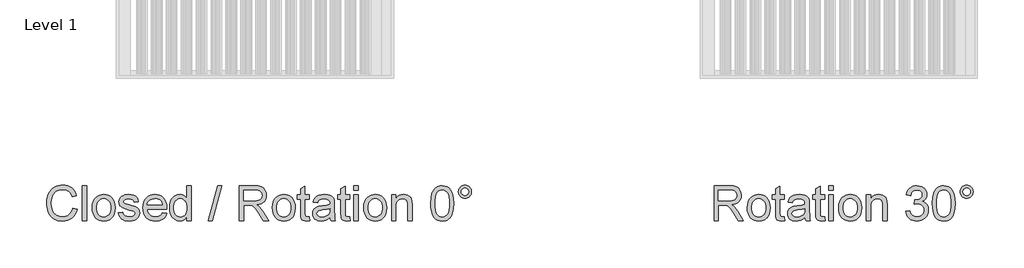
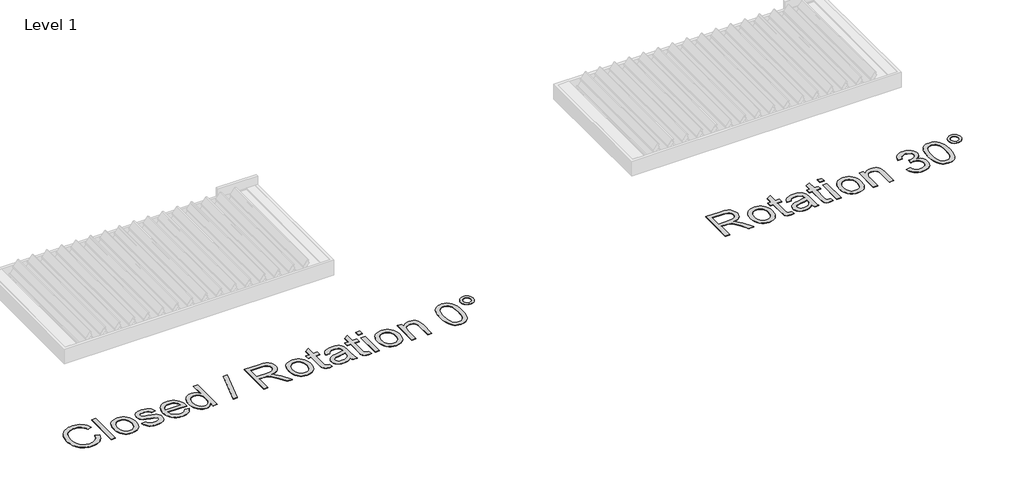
# One storey, part 7 of 12: 2 proxies.
"""IFC4 building model written with IfcOpenShell, lengths in millimetres."""

from ifc_helpers import new_model, si_unit, origin, origin_with_axes, place, context, project, spatial, polyline, outline, extrude, element, save

model = new_model("IFC4")

# Units and contexts
model_context = context("Model", 3, world=origin())
ifc_project = project(units=[si_unit("LENGTHUNIT", "METRE", prefix="MILLI")], contexts=[model_context])

# Site, building, storey
site = spatial("IfcSite", under=ifc_project)
building = spatial("IfcBuilding", under=site)
storey = spatial("IfcBuildingStorey", under=building, Name="Level 1", Elevation=0.0)

# Proxies
placement = place(None, origin())
element("IfcBuildingElementProxy", 1, Name="500mm Arial", ObjectType="500mm Arial", at=placement, inside=storey, context=model_context, shape_type="SweptSolid", body=[
    extrude(outline(polyline([(-11927.2781087, 14824.3526803), (-11864.4929149, 14808.1658725), (-11876.9165964, 14769.1205637), (-11893.463622, 14735.0033407), (-11914.1339916, 14705.8142036), (-11938.9277053, 14681.5531525), (-11967.2852757, 14662.4807703), (-11998.6472158, 14648.8576402), (-12033.0135255, 14640.6837621), (-12070.3842049, 14637.9591361), (-12108.6707571, 14640.0208081), (-12143.2095115, 14646.2058241), (-12174.0004681, 14656.5141842), (-12201.0436268, 14670.9458883), (-12224.7107018, 14689.2863386), (-12245.3734072, 14711.3209373), (-12263.031743, 14737.0496843), (-12277.6857091, 14766.4725797), (-12289.1935178, 14798.3173649), (-12297.4133811, 14831.3117814), (-12302.3452991, 14865.455829), (-12303.9892718, 14900.7495079), (-12302.1307013, 14938.6183608), (-12296.5549898, 14973.9886818), (-12287.2621373, 15006.8604709), (-12274.2521439, 15037.2337282), (-12257.8162493, 15064.6064479), (-12238.2456936, 15088.4766244), (-12215.5404767, 15108.8442578), (-12189.7005986, 15125.709348), (-12161.6036112, 15138.9339393), (-12132.1270664, 15148.380076), (-12101.270964, 15154.0477579), (-12069.0353042, 15155.9369853), (-12033.1246565, 15153.4921028), (-12000.1953859, 15146.1574556), (-11970.2474922, 15133.9330434), (-11943.2809755, 15116.8188664), (-11919.7403599, 15095.2671129), (-11900.0701695, 15069.7299711), (-11884.2704042, 15040.207441), (-11872.3410641, 15006.6995226), (-11935.126258, 14991.7389881), (-11945.0130866, 15016.4292349), (-11956.8926093, 15037.5249681), (-11970.7648263, 15055.0261876), (-11986.6297373, 15068.9328934), (-12004.579313, 15079.5286613), (-12024.7055238, 15087.0970669), (-12047.0083698, 15091.6381103), (-12071.4878508, 15093.1517914), (-12099.6538161, 15091.4733298), (-12125.41322, 15086.437945), (-12148.7660625, 15078.045637), (-12169.7123436, 15066.2964058), (-12187.9876481, 15051.7190817), (-12203.3275609, 15034.8424952), (-12215.7320819, 15015.6666462), (-12225.2012112, 14994.1915347), (-12237.2033613, 14948.2369422), (-12241.204078, 14900.8721353), (-12236.4675973, 14842.8694074), (-12222.2581552, 14792.7148287), (-12211.46695, 14771.0596083), (-12198.0392572, 14752.3244513), (-12181.9750767, 14736.5093576), (-12163.2744086, 14723.6143273), (-12121.5964443, 14706.4618292), (-12076.6381988, 14700.7443299), (-12049.3421212, 14702.6910388), (-12024.2303429, 14708.5311655), (-12001.302864, 14718.2647099), (-11980.5596844, 14731.8916722), (-11962.4913135, 14749.3507385), (-11947.5882606, 14770.5805953), (-11935.8505256, 14795.5812426), (-11927.2781087, 14824.3526803)])), origin_with_axes(), (0.0, 0.0, 1.0), 5.0),
    extrude(outline(polyline([(-11786.0114226, 14645.8072853), (-11786.0114226, 15148.088836), (-11723.2262287, 15148.088836), (-11723.2262287, 14645.8072853), (-11786.0114226, 14645.8072853)])), origin_with_axes(), (0.0, 0.0, 1.0), 5.0),
    extrude(outline(polyline([(-11644.7447364, 14830.2387922), (-11641.3494922, 14878.0098021), (-11631.1637595, 14919.1742645), (-11614.1875382, 14953.7321795), (-11590.4208285, 14981.6835469), (-11566.4931704, 14999.5488163), (-11540.0823088, 15012.309723), (-11511.1882438, 15019.966267), (-11479.8109753, 15022.5184484), (-11445.1725862, 15019.4106119), (-11413.8527992, 15010.0871026), (-11385.8516144, 14994.5479204), (-11361.1690318, 14972.7930653), (-11341.0236605, 14945.5583014), (-11326.6341095, 14913.5793925), (-11318.000379, 14876.8563388), (-11315.1224688, 14835.3891401), (-11320.211503, 14771.9601528), (-11326.5727959, 14745.9248374), (-11335.4786058, 14723.6756409), (-11346.8178019, 14704.4576388), (-11360.4792531, 14687.5159065), (-11376.4629594, 14672.850444), (-11394.7689207, 14660.4612514), (-11435.4965233, 14643.5846649), (-11479.8109753, 14637.9591361), (-11514.9552021, 14641.0554762), (-11546.566229, 14650.3444966), (-11574.6440558, 14665.8261972), (-11599.1886827, 14687.5005781), (-11619.1194562, 14714.9997572), (-11633.355723, 14747.9558526), (-11641.8974831, 14786.3688643), (-11644.7447364, 14830.2387922)]), holes=[polyline([(-11581.9595426, 14830.3614195), (-11580.1431252, 14799.9076881), (-11574.6938732, 14773.5389797), (-11565.6117864, 14751.2552943), (-11552.896865, 14733.0566318), (-11537.4304928, 14718.9199997), (-11520.0940537, 14708.8224054), (-11500.8875479, 14702.7638488), (-11479.8109753, 14700.7443299), (-11458.8417015, 14702.7753451), (-11439.7118378, 14708.8683906), (-11422.421384, 14719.0234665), (-11406.9703402, 14733.2405728), (-11394.2554188, 14751.6193442), (-11385.173332, 14774.2594153), (-11379.72408, 14801.1607862), (-11377.9076626, 14832.3234568), (-11379.7355763, 14861.811498), (-11385.2193173, 14887.4904277), (-11394.3588856, 14909.3602459), (-11407.1542812, 14927.4209526), (-11422.6628066, 14941.5575847), (-11439.941764, 14951.655179), (-11458.9911536, 14957.7137356), (-11479.8109753, 14959.7332545), (-11500.8875479, 14957.7213998), (-11520.0940537, 14951.6858359), (-11537.4304928, 14941.6265626), (-11552.896865, 14927.5435799), (-11565.6117864, 14909.3985669), (-11574.6938732, 14887.1532025), (-11580.1431252, 14860.8074867), (-11581.9595426, 14830.3614195)])]), origin_with_axes(), (0.0, 0.0, 1.0), 5.0),
    extrude(outline(polyline([(-11268.0335734, 14755.6813745), (-11205.2483795, 14763.5295237), (-11195.3462225, 14736.6741381), (-11176.1857019, 14716.9311377), (-11147.6441905, 14704.7910318), (-11109.5990608, 14700.7443299), (-11072.0137836, 14704.4538067), (-11045.5875936, 14715.582237), (-11029.9526088, 14731.7077312), (-11024.7409472, 14750.4083993), (-11029.9832657, 14766.411266), (-11045.710221, 14778.6126855), (-11110.3348248, 14796.516276), (-11167.6324455, 14813.0862942), (-11204.8804975, 14827.2344226), (-11228.8081556, 14842.670138), (-11246.1445947, 14863.1029171), (-11256.6752168, 14887.2298446), (-11260.1854241, 14913.7480051), (-11257.3649955, 14938.074202), (-11248.9037096, 14960.5303322), (-11235.5679873, 14980.2273473), (-11218.1242494, 14996.2761994), (-11200.7878103, 15006.3776258), (-11178.2090529, 15014.8542401), (-11152.1047596, 15020.6023963), (-11124.1917133, 15022.5184484), (-11083.326155, 15019.4374366), (-11047.7948856, 15010.1944015), (-11019.2227173, 14995.6937195), (-10999.2344622, 14976.8397673), (-10985.9907104, 14952.2376589), (-10977.6520519, 14920.4925084), (-11040.4372457, 14912.6443591), (-11048.362037, 14932.4026879), (-11064.0430071, 14947.2865803), (-11087.63344, 14956.621586), (-11119.28662, 14959.7332545), (-11155.3390555, 14956.7595417), (-11179.3740125, 14947.8384033), (-11192.8936759, 14934.9625335), (-11197.4002303, 14920.1246264), (-11195.5301635, 14910.467724), (-11189.9199631, 14901.8531539), (-11180.3243744, 14894.1582889), (-11166.4981427, 14887.9962654), (-11112.4194894, 14874.6298863), (-11020.2650496, 14845.0766993), (-10995.9235243, 14830.9438994), (-10977.4681109, 14811.5994378), (-10965.8338428, 14786.9820009), (-10961.9557534, 14757.0302752), (-10966.5082931, 14726.0668739), (-10980.1659122, 14696.9428826), (-11002.4074444, 14671.9422354), (-11032.7117238, 14653.3488662), (-11069.3159823, 14641.8065686), (-11110.4574521, 14637.9591361), (-11144.2489462, 14639.8138745), (-11173.7638121, 14645.3780896), (-11199.0020498, 14654.6517816), (-11219.9636593, 14667.6349503), (-11237.0855005, 14684.2662822), (-11250.8044333, 14704.4844635), (-11261.1204576, 14728.2894943), (-11268.0335734, 14755.6813745)])), origin_with_axes(), (0.0, 0.0, 1.0), 5.0),
    extrude(outline(polyline([(-10633.0692497, 14755.6813745), (-10571.5103292, 14747.8332253), (-10580.9488016, 14723.1774674), (-10593.6905478, 14701.4494371), (-10609.7355677, 14682.6491343), (-10629.0838614, 14666.776559), (-10651.5361594, 14654.1689365), (-10676.8931924, 14645.1634918), (-10705.1549602, 14639.760225), (-10736.321463, 14637.9591361), (-10775.2786335, 14641.0669725), (-10809.9898326, 14650.3904818), (-10840.4550603, 14665.929664), (-10866.6743166, 14687.6845191), (-10887.7585535, 14715.0495746), (-10902.8187227, 14747.419358), (-10911.8548242, 14784.7938695), (-10914.866858, 14827.1731089), (-10911.8241673, 14870.9893874), (-10902.6960953, 14909.6093327), (-10887.482642, 14943.0329448), (-10866.1838073, 14971.2602237), (-10840.0335288, 14993.685697), (-10810.265744, 15009.7038922), (-10776.880453, 15019.3148093), (-10739.8776556, 15022.5184484), (-10704.0666427, 15019.3224735), (-10671.6815308, 15009.734549), (-10642.72232, 14993.7546749), (-10617.1890102, 14971.382851), (-10596.346196, 14943.2168858), (-10581.4584715, 14909.8545873), (-10572.5258368, 14871.2959557), (-10569.5482919, 14827.5409909), (-10569.9161739, 14810.6184191), (-10852.0816642, 14810.6184191), (-10848.4449974, 14785.5641224), (-10841.2138169, 14763.6214942), (-10830.3881228, 14744.7905346), (-10815.967915, 14729.0712435), (-10798.7502712, 14716.6782188), (-10779.532269, 14707.8260583), (-10758.3139085, 14702.514762), (-10735.0951897, 14700.7443299), (-10701.6792418, 14704.024611), (-10673.5362692, 14713.8654544), (-10650.6662718, 14730.8799967), (-10633.0692497, 14755.6813745)]), holes=[polyline([(-10852.0816642, 14873.403613), (-10632.3334857, 14873.403613), (-10640.8254284, 14906.5743062), (-10657.4720887, 14930.3026949), (-10674.5939299, 14943.1785647), (-10694.0763472, 14952.3756146), (-10715.9193407, 14957.8938445), (-10740.1229103, 14959.7332545), (-10782.4446682, 14953.862471), (-10800.8579284, 14946.5239916), (-10817.439443, 14936.2501205), (-10831.353813, 14923.5160385), (-10841.7656399, 14908.7969266), (-10848.6749236, 14892.0927847), (-10852.0816642, 14873.403613)])]), origin_with_axes(), (0.0, 0.0, 1.0), 5.0),
    extrude(outline(polyline([(-10279.1667703, 14645.8072853), (-10279.1667703, 14705.0362865), (-10297.9517447, 14675.6900332), (-10320.706779, 14654.7284237), (-10347.4318731, 14642.151458), (-10378.127027, 14637.9591361), (-10418.7166738, 14644.029189), (-10455.8727554, 14662.2393477), (-10487.3266659, 14691.3173538), (-10510.8098, 14729.9909485), (-10525.4331093, 14776.6966335), (-10530.3075457, 14829.8709102), (-10525.8163197, 14882.386065), (-10512.3426416, 14929.8121856), (-10502.2412152, 14950.9424077), (-10489.9018399, 14969.4514705), (-10475.3245159, 14985.3393742), (-10458.509243, 14998.6061187), (-10420.5407554, 15016.5403659), (-10378.3722817, 15022.5184484), (-10347.6541351, 15018.2418202), (-10320.4921811, 15005.4119356), (-10297.4688996, 14985.7455772), (-10279.1667703, 14960.9595278), (-10279.1667703, 15148.088836), (-10216.3815765, 15148.088836), (-10216.3815765, 14645.8072853), (-10279.1667703, 14645.8072853)]), holes=[polyline([(-10467.5223519, 14830.1161649), (-10465.7519198, 14799.6700977), (-10460.4406235, 14773.3243819), (-10451.588463, 14751.0790175), (-10439.1954382, 14732.9340045), (-10424.3958521, 14718.8510219), (-10408.3240075, 14708.7917485), (-10390.9799043, 14702.7561846), (-10372.3635425, 14700.7443299), (-10353.6590423, 14702.6642141), (-10336.4184058, 14708.4238666), (-10320.6416332, 14718.0232874), (-10306.3287243, 14731.4624765), (-10294.4453695, 14748.8487329), (-10285.9572588, 14770.2893554), (-10280.8643925, 14795.7843441), (-10279.1667703, 14825.3336989), (-10280.8950493, 14857.7303071), (-10286.0798862, 14885.513062), (-10294.721281, 14908.6819635), (-10306.8192336, 14927.2370116), (-10321.4463751, 14941.4541179), (-10337.675336, 14951.6091938), (-10355.5061164, 14957.7022393), (-10374.9387164, 14959.7332545), (-10393.9229602, 14957.7827135), (-10411.2670634, 14951.9310905), (-10426.9710261, 14942.1783855), (-10441.0348482, 14928.5245986), (-10452.6231311, 14910.6708255), (-10460.900476, 14888.3181622), (-10465.8668829, 14861.4666086), (-10467.5223519, 14830.1161649)])]), origin_with_axes(), (0.0, 0.0, 1.0), 5.0),
    extrude(outline(polyline([(-9973.0889504, 14645.8072853), (-9831.8222642, 15148.088836), (-9775.168437, 15148.088836), (-9916.4351231, 14645.8072853), (-9973.0889504, 14645.8072853)])), origin_with_axes(), (0.0, 0.0, 1.0), 5.0),
    extrude(outline(polyline([(-9525.7444442, 14645.8072853), (-9525.7444442, 15148.088836), (-9309.3072037, 15148.088836), (-9251.1358632, 15144.701256), (-9208.8141054, 15134.5385159), (-9177.881361, 15115.7765341), (-9153.8770608, 15086.5912292), (-9138.4720022, 15050.4008379), (-9133.3369827, 15010.6235972), (-9135.4638005, 14984.8258723), (-9141.8442538, 14961.1434688), (-9152.4783428, 14939.5763869), (-9167.3660673, 14920.1246264), (-9186.6990325, 14903.4089882), (-9210.6688438, 14890.0502733), (-9239.275501, 14880.0484815), (-9272.5190042, 14873.403613), (-9251.825642, 14859.8839496), (-9236.8344507, 14846.5482273), (-9185.944108, 14781.9236235), (-9102.1896404, 14645.8072853), (-9175.1529028, 14645.8072853), (-9240.5132706, 14749.9178899), (-9287.7247933, 14818.8344504), (-9305.2758302, 14838.9300043), (-9320.8954866, 14851.3920069), (-9350.7552419, 14863.3481718), (-9387.1755594, 14865.5554637), (-9462.9592504, 14865.5554637), (-9462.9592504, 14645.8072853), (-9525.7444442, 14645.8072853)]), holes=[polyline([(-9462.9592504, 14928.3406576), (-9322.4283282, 14928.3406576), (-9282.0686077, 14930.563278), (-9250.7526528, 14937.2311391), (-9227.1775483, 14948.7887652), (-9210.0403787, 14965.6806801), (-9199.6017271, 14986.1134592), (-9196.1221765, 15008.2936779), (-9197.7814776, 15024.3501941), (-9202.7593809, 15038.919854), (-9211.0558863, 15052.0026574), (-9222.6709939, 15063.5986045), (-9237.8729509, 15073.0945585), (-9256.9300047, 15079.8773828), (-9306.6094024, 15085.3036422), (-9462.9592504, 15085.3036422), (-9462.9592504, 14928.3406576)])]), origin_with_axes(), (0.0, 0.0, 1.0), 5.0),
    extrude(outline(polyline([(-9047.0073412, 14830.2387922), (-9043.6120969, 14878.0098021), (-9033.4263642, 14919.1742645), (-9016.4501429, 14953.7321795), (-8992.6834332, 14981.6835469), (-8968.7557751, 14999.5488163), (-8942.3449135, 15012.309723), (-8913.4508485, 15019.966267), (-8882.07358, 15022.5184484), (-8847.4351909, 15019.4106119), (-8816.1154039, 15010.0871026), (-8788.1142192, 14994.5479204), (-8763.4316366, 14972.7930653), (-8743.2862652, 14945.5583014), (-8728.8967143, 14913.5793925), (-8720.2629837, 14876.8563388), (-8717.3850735, 14835.3891401), (-8722.4741078, 14771.9601528), (-8728.8354006, 14745.9248374), (-8737.7412106, 14723.6756409), (-8749.0804066, 14704.4576388), (-8762.7418578, 14687.5159065), (-8778.7255641, 14672.850444), (-8797.0315254, 14660.4612514), (-8837.759128, 14643.5846649), (-8882.07358, 14637.9591361), (-8917.2178068, 14641.0554762), (-8948.8288337, 14650.3444966), (-8976.9066606, 14665.8261972), (-9001.4512874, 14687.5005781), (-9021.3820609, 14714.9997572), (-9035.6183277, 14747.9558526), (-9044.1600878, 14786.3688643), (-9047.0073412, 14830.2387922)]), holes=[polyline([(-8984.2221473, 14830.3614195), (-8982.40573, 14799.9076881), (-8976.9564779, 14773.5389797), (-8967.8743912, 14751.2552943), (-8955.1594697, 14733.0566318), (-8939.6930975, 14718.9199997), (-8922.3566585, 14708.8224054), (-8903.1501526, 14702.7638488), (-8882.07358, 14700.7443299), (-8861.1043063, 14702.7753451), (-8841.9744425, 14708.8683906), (-8824.6839887, 14719.0234665), (-8809.232945, 14733.2405728), (-8796.5180235, 14751.6193442), (-8787.4359367, 14774.2594153), (-8781.9866847, 14801.1607862), (-8780.1702673, 14832.3234568), (-8781.998181, 14861.811498), (-8787.481922, 14887.4904277), (-8796.6214903, 14909.3602459), (-8809.4168859, 14927.4209526), (-8824.9254113, 14941.5575847), (-8842.2043688, 14951.655179), (-8861.2537583, 14957.7137356), (-8882.07358, 14959.7332545), (-8903.1501526, 14957.7213998), (-8922.3566585, 14951.6858359), (-8939.6930975, 14941.6265626), (-8955.1594697, 14927.5435799), (-8967.8743912, 14909.3985669), (-8976.9564779, 14887.1532025), (-8982.40573, 14860.8074867), (-8984.2221473, 14830.3614195)])]), origin_with_axes(), (0.0, 0.0, 1.0), 5.0),
    extrude(outline(polyline([(-8513.3331935, 14698.1691559), (-8505.4850443, 14643.9678753), (-8552.4513123, 14637.9591361), (-8582.5869791, 14640.5649669), (-8605.0584376, 14648.3824593), (-8620.9386771, 14660.4305946), (-8631.3006866, 14675.7283542), (-8637.0028575, 14702.0012601), (-8638.9035812, 14746.974834), (-8638.9035812, 14951.8851053), (-8685.9924766, 14951.8851053), (-8685.9924766, 15014.6702991), (-8638.9035812, 15014.6702991), (-8638.9035812, 15104.3108786), (-8576.1183873, 15141.2217055), (-8576.1183873, 15014.6702991), (-8513.3331935, 15014.6702991), (-8513.3331935, 14951.8851053), (-8576.1183873, 14951.8851053), (-8576.1183873, 14748.8142439), (-8572.8074494, 14716.4406284), (-8562.0775579, 14704.9749728), (-8540.6790885, 14700.7443299), (-8513.3331935, 14698.1691559)])), origin_with_axes(), (0.0, 0.0, 1.0), 5.0),
    extrude(outline(polyline([(-8215.1035227, 14692.8961807), (-8245.1012338, 14667.1750978), (-8275.9879929, 14650.3444966), (-8308.4689074, 14641.0554762), (-8343.2490844, 14637.9591361), (-8371.2042839, 14639.8215387), (-8395.718254, 14645.4087465), (-8416.7909945, 14654.7207595), (-8434.4225055, 14667.7575777), (-8448.3445398, 14683.6914666), (-8458.28885, 14701.6946917), (-8464.2554361, 14721.7672531), (-8466.2442981, 14743.9091507), (-8463.2399285, 14769.9368018), (-8454.2268196, 14793.57322), (-8440.3239459, 14813.8067298), (-8422.6502817, 14829.6256555), (-8401.8802774, 14841.5818204), (-8378.6883833, 14850.2270473), (-8324.3644753, 14859.6693518), (-8260.1690671, 14869.6021657), (-8215.4714047, 14881.2517622), (-8215.1035227, 14895.231278), (-8219.4261362, 14923.2516233), (-8232.3939765, 14941.5844094), (-8245.4691158, 14949.5245291), (-8261.3953405, 14955.1960432), (-8301.8010463, 14959.7332545), (-8339.2023824, 14956.7135565), (-8365.3220041, 14947.6544623), (-8383.133624, 14930.9005031), (-8395.610955, 14904.7962099), (-8458.3961489, 14912.6443591), (-8447.4976448, 14946.980012), (-8431.2341949, 14973.958025), (-8408.088286, 14994.5900735), (-8376.542405, 15009.8878332), (-8337.9607807, 15019.3607946), (-8293.7076424, 15022.5184484), (-8251.2632572, 15019.7286766), (-8217.617383, 15011.3593612), (-8192.2488538, 14998.7747312), (-8174.6365033, 14983.3390159), (-8162.9562499, 14964.2551374), (-8155.3840122, 14940.7260181), (-8152.3183289, 14885.7889735), (-8152.3183289, 14807.6753632), (-8149.1300183, 14698.5983516), (-8144.408866, 14671.635667), (-8136.6220304, 14645.8072853), (-8199.4072243, 14645.8072853), (-8209.4626655, 14667.6349503), (-8215.1035227, 14692.8961807)]), holes=[polyline([(-8215.1035227, 14818.4665684), (-8257.2873249, 14808.0125883), (-8316.3936987, 14799.2140773), (-8370.4110384, 14789.0360087), (-8384.4671963, 14782.0769077), (-8394.875191, 14772.481319), (-8401.313126, 14760.9850066), (-8403.4591043, 14748.3237346), (-8398.7839372, 14729.6537234), (-8384.7584362, 14714.3559637), (-8361.6891694, 14704.1472384), (-8329.8827052, 14700.7443299), (-8296.160189, 14704.4997919), (-8266.3617474, 14715.766178), (-8242.2041631, 14732.3668531), (-8225.4042186, 14752.1251819), (-8217.9546082, 14772.481319), (-8215.4714047, 14800.6856053), (-8215.1035227, 14818.4665684)])]), origin_with_axes(), (0.0, 0.0, 1.0), 5.0),
    extrude(outline(polyline([(-7932.5701504, 14698.1691559), (-7924.7220012, 14643.9678753), (-7971.6882693, 14637.9591361), (-8001.823936, 14640.5649669), (-8024.2953946, 14648.3824593), (-8040.175634, 14660.4305946), (-8050.5376436, 14675.7283542), (-8056.2398145, 14702.0012601), (-8058.1405381, 14746.974834), (-8058.1405381, 14951.8851053), (-8105.2294335, 14951.8851053), (-8105.2294335, 15014.6702991), (-8058.1405381, 15014.6702991), (-8058.1405381, 15104.3108786), (-7995.3553443, 15141.2217055), (-7995.3553443, 15014.6702991), (-7932.5701504, 15014.6702991), (-7932.5701504, 14951.8851053), (-7995.3553443, 14951.8851053), (-7995.3553443, 14748.8142439), (-7992.0444063, 14716.4406284), (-7981.3145148, 14704.9749728), (-7959.9160454, 14700.7443299), (-7932.5701504, 14698.1691559)])), origin_with_axes(), (0.0, 0.0, 1.0), 5.0),
    extrude(outline(polyline([(-7869.7849566, 14645.8072853), (-7869.7849566, 15014.6702991), (-7806.9997628, 15014.6702991), (-7806.9997628, 14645.8072853), (-7869.7849566, 14645.8072853)])), origin_with_axes(), (0.0, 0.0, 1.0), 5.0),
    extrude(outline(polyline([(-7869.7849566, 15085.3036422), (-7869.7849566, 15148.088836), (-7806.9997628, 15148.088836), (-7806.9997628, 15085.3036422), (-7869.7849566, 15085.3036422)])), origin_with_axes(), (0.0, 0.0, 1.0), 5.0),
    extrude(outline(polyline([(-7728.5182705, 14830.2387922), (-7725.1230262, 14878.0098021), (-7714.9372935, 14919.1742645), (-7697.9610722, 14953.7321795), (-7674.1943625, 14981.6835469), (-7650.2667044, 14999.5488163), (-7623.8558428, 15012.309723), (-7594.9617778, 15019.966267), (-7563.5845093, 15022.5184484), (-7528.9461202, 15019.4106119), (-7497.6263332, 15010.0871026), (-7469.6251485, 14994.5479204), (-7444.9425658, 14972.7930653), (-7424.7971945, 14945.5583014), (-7410.4076435, 14913.5793925), (-7401.773913, 14876.8563388), (-7398.8960028, 14835.3891401), (-7403.985037, 14771.9601528), (-7410.3463299, 14745.9248374), (-7419.2521398, 14723.6756409), (-7430.5913359, 14704.4576388), (-7444.2527871, 14687.5159065), (-7460.2364934, 14672.850444), (-7478.5424547, 14660.4612514), (-7519.2700573, 14643.5846649), (-7563.5845093, 14637.9591361), (-7598.7287361, 14641.0554762), (-7630.339763, 14650.3444966), (-7658.4175899, 14665.8261972), (-7682.9622167, 14687.5005781), (-7702.8929902, 14714.9997572), (-7717.129257, 14747.9558526), (-7725.6710171, 14786.3688643), (-7728.5182705, 14830.2387922)]), holes=[polyline([(-7665.7330766, 14830.3614195), (-7663.9166593, 14799.9076881), (-7658.4674072, 14773.5389797), (-7649.3853204, 14751.2552943), (-7636.670399, 14733.0566318), (-7621.2040268, 14718.9199997), (-7603.8675878, 14708.8224054), (-7584.6610819, 14702.7638488), (-7563.5845093, 14700.7443299), (-7542.6152356, 14702.7753451), (-7523.4853718, 14708.8683906), (-7506.194918, 14719.0234665), (-7490.7438742, 14733.2405728), (-7478.0289528, 14751.6193442), (-7468.946866, 14774.2594153), (-7463.497614, 14801.1607862), (-7461.6811966, 14832.3234568), (-7463.5091103, 14861.811498), (-7468.9928513, 14887.4904277), (-7478.1324196, 14909.3602459), (-7490.9278152, 14927.4209526), (-7506.4363406, 14941.5575847), (-7523.7152981, 14951.655179), (-7542.7646876, 14957.7137356), (-7563.5845093, 14959.7332545), (-7584.6610819, 14957.7213998), (-7603.8675878, 14951.6858359), (-7621.2040268, 14941.6265626), (-7636.670399, 14927.5435799), (-7649.3853204, 14909.3985669), (-7658.4674072, 14887.1532025), (-7663.9166593, 14860.8074867), (-7665.7330766, 14830.3614195)])]), origin_with_axes(), (0.0, 0.0, 1.0), 5.0),
    extrude(outline(polyline([(-7328.2626597, 14645.8072853), (-7328.2626597, 15014.6702991), (-7265.4774659, 15014.6702991), (-7265.4774659, 14963.1668198), (-7243.6651292, 14989.1331573), (-7217.4688655, 15007.6805412), (-7186.8886746, 15018.8089716), (-7151.9245567, 15022.5184484), (-7120.9764838, 15019.5294071), (-7092.6342418, 15010.5622835), (-7068.9978236, 14996.7360519), (-7052.1672223, 14979.1696866), (-7040.7475521, 14957.9091729), (-7033.3439269, 14933.0004962), (-7030.0329889, 14872.299967), (-7030.0329889, 14645.8072853), (-7092.8181828, 14645.8072853), (-7092.8181828, 14863.8386811), (-7094.6269359, 14896.3042672), (-7100.0531954, 14919.3888624), (-7110.0626513, 14935.9282237), (-7125.620994, 14948.7581083), (-7145.5632638, 14956.989468), (-7168.7245011, 14959.7332545), (-7187.7892191, 14958.1927487), (-7205.4973722, 14953.5712311), (-7221.8489605, 14945.8687018), (-7236.8439839, 14935.0851608), (-7249.3711323, 14919.9943348), (-7258.3190954, 14899.3699505), (-7263.6878732, 14873.2120078), (-7265.4774659, 14841.5205067), (-7265.4774659, 14645.8072853), (-7328.2626597, 14645.8072853)])), origin_with_axes(), (0.0, 0.0, 1.0), 5.0),
    extrude(outline(polyline([(-6763.1959151, 14892.9013587), (-6758.5820618, 14973.2989031), (-6744.7405017, 15037.4176692), (-6734.3938206, 15063.617765), (-6721.8091907, 15086.2386756), (-6706.9866119, 15105.280401), (-6689.9260844, 15120.7429411), (-6670.5701265, 15132.7067701), (-6648.8612567, 15141.2523623), (-6624.7994749, 15146.3797176), (-6598.3847813, 15148.088836), (-6559.6958581, 15144.0421341), (-6525.0536369, 15131.9020282), (-6496.0829298, 15112.1436994), (-6474.4085489, 15085.2423285), (-6458.0378001, 15051.4278418), (-6444.9779893, 15010.9301655), (-6436.4247329, 14959.5033283), (-6433.5736474, 14892.9013587), (-6438.1415155, 14812.9636668), (-6451.8451199, 14748.9981849), (-6462.1113268, 14722.7865928), (-6474.6384751, 14700.1311932), (-6489.4265649, 14681.0319863), (-6506.4755961, 14665.488972), (-6525.8545467, 14653.4446688), (-6547.6323944, 14644.8415951), (-6571.8091392, 14639.6797508), (-6598.3847813, 14637.9591361), (-6632.9656888, 14640.9481773), (-6663.6225217, 14649.9153009), (-6690.3552801, 14664.860507), (-6713.1639638, 14685.7837954), (-6735.0529425, 14723.6066631), (-6750.6879273, 14770.7338795), (-6760.0689181, 14827.1654447), (-6763.1959151, 14892.9013587)]), holes=[polyline([(-6700.4107213, 14893.023986), (-6698.5713113, 14838.4433271), (-6693.0530814, 14794.2629988), (-6683.8560315, 14760.483001), (-6670.9801617, 14737.1033338), (-6655.4064905, 14721.1962696), (-6638.1160367, 14709.8340809), (-6619.1088003, 14703.0167676), (-6598.3847813, 14700.7443299), (-6577.6607622, 14703.0244319), (-6558.6535258, 14709.8647377), (-6541.363072, 14721.2652474), (-6525.7894009, 14737.2259611), (-6512.9135311, 14760.6439493), (-6503.7164812, 14794.4162829), (-6498.1982512, 14838.5429618), (-6496.3588413, 14893.023986), (-6498.1369376, 14946.1599417), (-6503.4712265, 14989.5623529), (-6512.3617081, 15023.2312197), (-6524.8083822, 15047.166542), (-6540.1214703, 15063.8515234), (-6557.6111935, 15075.7693672), (-6577.2775518, 15082.9200734), (-6599.1205453, 15085.3036422), (-6619.7372654, 15083.2036491), (-6638.4226051, 15076.90367), (-6655.1765643, 15066.4037047), (-6669.999143, 15051.7037533), (-6683.3042085, 15025.6454453), (-6692.8078267, 14990.5127148), (-6698.5099976, 14946.3055617), (-6700.4107213, 14893.023986)])]), origin_with_axes(), (0.0, 0.0, 1.0), 5.0),
    extrude(outline(polyline([(-6362.9403044, 15061.8818218), (-6361.2120254, 15080.7127815), (-6356.0271885, 15098.0875415), (-6347.3857937, 15114.006102), (-6335.2878411, 15128.468463), (-6320.7679986, 15140.4859415), (-6304.8609344, 15149.0698547), (-6287.5666485, 15154.2202026), (-6268.8851409, 15155.9369853), (-6249.9468824, 15154.2202026), (-6232.4954802, 15149.0698547), (-6216.5309345, 15140.4859415), (-6202.0532451, 15128.468463), (-6190.0357666, 15114.006102), (-6181.4518534, 15098.0875415), (-6176.3015055, 15080.7127815), (-6174.5847228, 15061.8818218), (-6176.3130018, 15043.0930154), (-6181.4978387, 15025.7220874), (-6190.1392334, 15009.769038), (-6202.2371861, 14995.233867), (-6216.772357, 14983.1359143), (-6232.7254065, 14974.4945196), (-6250.0963344, 14969.3096827), (-6268.8851409, 14967.5814037), (-6287.5666485, 14969.2981864), (-6304.8609344, 14974.4485343), (-6320.7679986, 14983.0324475), (-6335.2878411, 14995.049926), (-6347.3857937, 15009.5276154), (-6356.0271885, 15025.4921611), (-6361.2120254, 15042.9435633), (-6362.9403044, 15061.8818218)]), holes=[polyline([(-6323.6995582, 15061.7591945), (-6319.6681847, 15040.6366366), (-6307.5740641, 15022.8863303), (-6289.7777726, 15010.838195), (-6268.6398863, 15006.8221499), (-6247.685941, 15010.838195), (-6229.9509631, 15022.8863303), (-6217.8568425, 15040.6366366), (-6213.825469, 15061.7591945), (-6217.8568425, 15082.8817524), (-6229.9509631, 15100.6320587), (-6247.685941, 15112.680194), (-6268.6398863, 15116.6962391), (-6289.7777726, 15112.680194), (-6307.5740641, 15100.6320587), (-6319.6681847, 15082.8817524), (-6323.6995582, 15061.7591945)])]), origin_with_axes(), (0.0, 0.0, 1.0), 5.0),
])
element("IfcBuildingElementProxy", 2, Name="500mm Arial", ObjectType="500mm Arial", at=placement, inside=storey, context=model_context, shape_type="SweptSolid", body=[
    extrude(outline(polyline([(-2675.0312961, 14645.8072853), (-2675.0312961, 15148.088836), (-2458.5940556, 15148.088836), (-2400.4227151, 15144.701256), (-2358.1009573, 15134.5385159), (-2327.1682129, 15115.7765341), (-2303.1639127, 15086.5912292), (-2287.7588541, 15050.4008379), (-2282.6238346, 15010.6235972), (-2284.7506524, 14984.8258723), (-2291.1311057, 14961.1434688), (-2301.7651947, 14939.5763869), (-2316.6529192, 14920.1246264), (-2335.9858844, 14903.4089882), (-2359.9556957, 14890.0502733), (-2388.5623529, 14880.0484815), (-2421.8058561, 14873.403613), (-2401.1124939, 14859.8839496), (-2386.1213026, 14846.5482273), (-2335.2309599, 14781.9236235), (-2251.4764924, 14645.8072853), (-2324.4397547, 14645.8072853), (-2389.8001225, 14749.9178899), (-2437.0116453, 14818.8344504), (-2454.5626821, 14838.9300043), (-2470.1823385, 14851.3920069), (-2500.0420938, 14863.3481718), (-2536.4624113, 14865.5554637), (-2612.2461023, 14865.5554637), (-2612.2461023, 14645.8072853), (-2675.0312961, 14645.8072853)]), holes=[polyline([(-2612.2461023, 14928.3406576), (-2471.7151801, 14928.3406576), (-2431.3554596, 14930.563278), (-2400.0395047, 14937.2311391), (-2376.4644002, 14948.7887652), (-2359.3272306, 14965.6806801), (-2348.888579, 14986.1134592), (-2345.4090285, 15008.2936779), (-2347.0683295, 15024.3501941), (-2352.0462328, 15038.919854), (-2360.3427382, 15052.0026574), (-2371.9578458, 15063.5986045), (-2387.1598028, 15073.0945585), (-2406.2168566, 15079.8773828), (-2455.8962543, 15085.3036422), (-2612.2461023, 15085.3036422), (-2612.2461023, 14928.3406576)])]), origin_with_axes(), (0.0, 0.0, 1.0), 5.0),
    extrude(outline(polyline([(-2196.2941931, 14830.2387922), (-2192.8989488, 14878.0098021), (-2182.7132161, 14919.1742645), (-2165.7369949, 14953.7321795), (-2141.9702851, 14981.6835469), (-2118.042627, 14999.5488163), (-2091.6317654, 15012.309723), (-2062.7377004, 15019.966267), (-2031.3604319, 15022.5184484), (-1996.7220428, 15019.4106119), (-1965.4022559, 15010.0871026), (-1937.4010711, 14994.5479204), (-1912.7184885, 14972.7930653), (-1892.5731171, 14945.5583014), (-1878.1835662, 14913.5793925), (-1869.5498356, 14876.8563388), (-1866.6719254, 14835.3891401), (-1871.7609597, 14771.9601528), (-1878.1222525, 14745.9248374), (-1887.0280625, 14723.6756409), (-1898.3672585, 14704.4576388), (-1912.0287097, 14687.5159065), (-1928.012416, 14672.850444), (-1946.3183774, 14660.4612514), (-1987.0459799, 14643.5846649), (-2031.3604319, 14637.9591361), (-2066.5046588, 14641.0554762), (-2098.1156856, 14650.3444966), (-2126.1935125, 14665.8261972), (-2150.7381393, 14687.5005781), (-2170.6689128, 14714.9997572), (-2184.9051796, 14747.9558526), (-2193.4469397, 14786.3688643), (-2196.2941931, 14830.2387922)]), holes=[polyline([(-2133.5089992, 14830.3614195), (-2131.6925819, 14799.9076881), (-2126.2433298, 14773.5389797), (-2117.1612431, 14751.2552943), (-2104.4463216, 14733.0566318), (-2088.9799494, 14718.9199997), (-2071.6435104, 14708.8224054), (-2052.4370045, 14702.7638488), (-2031.3604319, 14700.7443299), (-2010.3911582, 14702.7753451), (-1991.2612944, 14708.8683906), (-1973.9708407, 14719.0234665), (-1958.5197969, 14733.2405728), (-1945.8048754, 14751.6193442), (-1936.7227886, 14774.2594153), (-1931.2735366, 14801.1607862), (-1929.4571192, 14832.3234568), (-1931.2850329, 14861.811498), (-1936.7687739, 14887.4904277), (-1945.9083422, 14909.3602459), (-1958.7037379, 14927.4209526), (-1974.2122632, 14941.5575847), (-1991.4912207, 14951.655179), (-2010.5406102, 14957.7137356), (-2031.3604319, 14959.7332545), (-2052.4370045, 14957.7213998), (-2071.6435104, 14951.6858359), (-2088.9799494, 14941.6265626), (-2104.4463216, 14927.5435799), (-2117.1612431, 14909.3985669), (-2126.2433298, 14887.1532025), (-2131.6925819, 14860.8074867), (-2133.5089992, 14830.3614195)])]), origin_with_axes(), (0.0, 0.0, 1.0), 5.0),
    extrude(outline(polyline([(-1662.6200454, 14698.1691559), (-1654.7718962, 14643.9678753), (-1701.7381642, 14637.9591361), (-1731.873831, 14640.5649669), (-1754.3452895, 14648.3824593), (-1770.225529, 14660.4305946), (-1780.5875385, 14675.7283542), (-1786.2897095, 14702.0012601), (-1788.1904331, 14746.974834), (-1788.1904331, 14951.8851053), (-1835.2793285, 14951.8851053), (-1835.2793285, 15014.6702991), (-1788.1904331, 15014.6702991), (-1788.1904331, 15104.3108786), (-1725.4052392, 15141.2217055), (-1725.4052392, 15014.6702991), (-1662.6200454, 15014.6702991), (-1662.6200454, 14951.8851053), (-1725.4052392, 14951.8851053), (-1725.4052392, 14748.8142439), (-1722.0943013, 14716.4406284), (-1711.3644098, 14704.9749728), (-1689.9659404, 14700.7443299), (-1662.6200454, 14698.1691559)])), origin_with_axes(), (0.0, 0.0, 1.0), 5.0),
    extrude(outline(polyline([(-1364.3903746, 14692.8961807), (-1394.3880857, 14667.1750978), (-1425.2748449, 14650.3444966), (-1457.7557593, 14641.0554762), (-1492.5359363, 14637.9591361), (-1520.4911358, 14639.8215387), (-1545.0051059, 14645.4087465), (-1566.0778464, 14654.7207595), (-1583.7093574, 14667.7575777), (-1597.6313917, 14683.6914666), (-1607.5757019, 14701.6946917), (-1613.542288, 14721.7672531), (-1615.53115, 14743.9091507), (-1612.5267804, 14769.9368018), (-1603.5136715, 14793.57322), (-1589.6107978, 14813.8067298), (-1571.9371336, 14829.6256555), (-1551.1671293, 14841.5818204), (-1527.9752352, 14850.2270473), (-1473.6513272, 14859.6693518), (-1409.4559191, 14869.6021657), (-1364.7582566, 14881.2517622), (-1364.3903746, 14895.231278), (-1368.7129881, 14923.2516233), (-1381.6808284, 14941.5844094), (-1394.7559677, 14949.5245291), (-1410.6821924, 14955.1960432), (-1451.0878982, 14959.7332545), (-1488.4892344, 14956.7135565), (-1514.608856, 14947.6544623), (-1532.4204759, 14930.9005031), (-1544.8978069, 14904.7962099), (-1607.6830008, 14912.6443591), (-1596.7844967, 14946.980012), (-1580.5210468, 14973.958025), (-1557.375138, 14994.5900735), (-1525.8292569, 15009.8878332), (-1487.2476326, 15019.3607946), (-1442.9944943, 15022.5184484), (-1400.5501091, 15019.7286766), (-1366.9042349, 15011.3593612), (-1341.5357057, 14998.7747312), (-1323.9233552, 14983.3390159), (-1312.2431018, 14964.2551374), (-1304.6708641, 14940.7260181), (-1301.6051808, 14885.7889735), (-1301.6051808, 14807.6753632), (-1298.4168702, 14698.5983516), (-1293.6957179, 14671.635667), (-1285.9088823, 14645.8072853), (-1348.6940762, 14645.8072853), (-1358.7495174, 14667.6349503), (-1364.3903746, 14692.8961807)]), holes=[polyline([(-1364.3903746, 14818.4665684), (-1406.5741768, 14808.0125883), (-1465.6805507, 14799.2140773), (-1519.6978903, 14789.0360087), (-1533.7540482, 14782.0769077), (-1544.162043, 14772.481319), (-1550.5999779, 14760.9850066), (-1552.7459562, 14748.3237346), (-1548.0707892, 14729.6537234), (-1534.0452881, 14714.3559637), (-1510.9760213, 14704.1472384), (-1479.1695571, 14700.7443299), (-1445.4470409, 14704.4997919), (-1415.6485993, 14715.766178), (-1391.491015, 14732.3668531), (-1374.6910705, 14752.1251819), (-1367.2414601, 14772.481319), (-1364.7582566, 14800.6856053), (-1364.3903746, 14818.4665684)])]), origin_with_axes(), (0.0, 0.0, 1.0), 5.0),
    extrude(outline(polyline([(-1081.8570024, 14698.1691559), (-1074.0088531, 14643.9678753), (-1120.9751212, 14637.9591361), (-1151.1107879, 14640.5649669), (-1173.5822465, 14648.3824593), (-1189.4624859, 14660.4305946), (-1199.8244955, 14675.7283542), (-1205.5266664, 14702.0012601), (-1207.42739, 14746.974834), (-1207.42739, 14951.8851053), (-1254.5162854, 14951.8851053), (-1254.5162854, 15014.6702991), (-1207.42739, 15014.6702991), (-1207.42739, 15104.3108786), (-1144.6421962, 15141.2217055), (-1144.6421962, 15014.6702991), (-1081.8570024, 15014.6702991), (-1081.8570024, 14951.8851053), (-1144.6421962, 14951.8851053), (-1144.6421962, 14748.8142439), (-1141.3312582, 14716.4406284), (-1130.6013667, 14704.9749728), (-1109.2028973, 14700.7443299), (-1081.8570024, 14698.1691559)])), origin_with_axes(), (0.0, 0.0, 1.0), 5.0),
    extrude(outline(polyline([(-1019.0718085, 15085.3036422), (-1019.0718085, 15148.088836), (-956.2866147, 15148.088836), (-956.2866147, 15085.3036422), (-1019.0718085, 15085.3036422)])), origin_with_axes(), (0.0, 0.0, 1.0), 5.0),
    extrude(outline(polyline([(-1019.0718085, 14645.8072853), (-1019.0718085, 15014.6702991), (-956.2866147, 15014.6702991), (-956.2866147, 14645.8072853), (-1019.0718085, 14645.8072853)])), origin_with_axes(), (0.0, 0.0, 1.0), 5.0),
    extrude(outline(polyline([(-877.8051224, 14830.2387922), (-874.4098781, 14878.0098021), (-864.2241454, 14919.1742645), (-847.2479241, 14953.7321795), (-823.4812144, 14981.6835469), (-799.5535563, 14999.5488163), (-773.1426947, 15012.309723), (-744.2486297, 15019.966267), (-712.8713612, 15022.5184484), (-678.2329721, 15019.4106119), (-646.9131851, 15010.0871026), (-618.9120004, 14994.5479204), (-594.2294177, 14972.7930653), (-574.0840464, 14945.5583014), (-559.6944954, 14913.5793925), (-551.0607649, 14876.8563388), (-548.1828547, 14835.3891401), (-553.271889, 14771.9601528), (-559.6331818, 14745.9248374), (-568.5389918, 14723.6756409), (-579.8781878, 14704.4576388), (-593.539639, 14687.5159065), (-609.5233453, 14672.850444), (-627.8293066, 14660.4612514), (-668.5569092, 14643.5846649), (-712.8713612, 14637.9591361), (-748.015588, 14641.0554762), (-779.6266149, 14650.3444966), (-807.7044418, 14665.8261972), (-832.2490686, 14687.5005781), (-852.1798421, 14714.9997572), (-866.4161089, 14747.9558526), (-874.957869, 14786.3688643), (-877.8051224, 14830.2387922)]), holes=[polyline([(-815.0199285, 14830.3614195), (-813.2035112, 14799.9076881), (-807.7542591, 14773.5389797), (-798.6721724, 14751.2552943), (-785.9572509, 14733.0566318), (-770.4908787, 14718.9199997), (-753.1544397, 14708.8224054), (-733.9479338, 14702.7638488), (-712.8713612, 14700.7443299), (-691.9020875, 14702.7753451), (-672.7722237, 14708.8683906), (-655.4817699, 14719.0234665), (-640.0307261, 14733.2405728), (-627.3158047, 14751.6193442), (-618.2337179, 14774.2594153), (-612.7844659, 14801.1607862), (-610.9680485, 14832.3234568), (-612.7959622, 14861.811498), (-618.2797032, 14887.4904277), (-627.4192715, 14909.3602459), (-640.2146671, 14927.4209526), (-655.7231925, 14941.5575847), (-673.00215, 14951.655179), (-692.0515395, 14957.7137356), (-712.8713612, 14959.7332545), (-733.9479338, 14957.7213998), (-753.1544397, 14951.6858359), (-770.4908787, 14941.6265626), (-785.9572509, 14927.5435799), (-798.6721724, 14909.3985669), (-807.7542591, 14887.1532025), (-813.2035112, 14860.8074867), (-815.0199285, 14830.3614195)])]), origin_with_axes(), (0.0, 0.0, 1.0), 5.0),
    extrude(outline(polyline([(-477.5495116, 14645.8072853), (-477.5495116, 15014.6702991), (-414.7643178, 15014.6702991), (-414.7643178, 14963.1668198), (-392.9519811, 14989.1331573), (-366.7557174, 15007.6805412), (-336.1755265, 15018.8089716), (-301.2114086, 15022.5184484), (-270.2633357, 15019.5294071), (-241.9210937, 15010.5622835), (-218.2846755, 14996.7360519), (-201.4540742, 14979.1696866), (-190.034404, 14957.9091729), (-182.6307788, 14933.0004962), (-179.3198409, 14872.299967), (-179.3198409, 14645.8072853), (-242.1050347, 14645.8072853), (-242.1050347, 14863.8386811), (-243.9137878, 14896.3042672), (-249.3400473, 14919.3888624), (-259.3495032, 14935.9282237), (-274.9078459, 14948.7581083), (-294.8501158, 14956.989468), (-318.011353, 14959.7332545), (-337.076071, 14958.1927487), (-354.7842241, 14953.5712311), (-371.1358124, 14945.8687018), (-386.1308358, 14935.0851608), (-398.6579842, 14919.9943348), (-407.6059473, 14899.3699505), (-412.9747251, 14873.2120078), (-414.7643178, 14841.5205067), (-414.7643178, 14645.8072853), (-477.5495116, 14645.8072853)])), origin_with_axes(), (0.0, 0.0, 1.0), 5.0),
    extrude(outline(polyline([(87.517233, 14779.2258222), (150.3024268, 14787.0739714), (164.3585847, 14747.6186275), (173.8353782, 14732.696414), (184.944648, 14720.9778396), (197.9393131, 14712.1256791), (213.0722923, 14705.8027073), (249.7531929, 14700.7443299), (272.5005629, 14702.4841052), (292.7953863, 14707.703431), (310.6376631, 14716.4023073), (326.0273932, 14728.5807342), (338.4204179, 14743.3266708), (347.2725784, 14759.7280765), (352.5838747, 14777.7849511), (354.3543068, 14797.4972946), (352.5992031, 14816.2707727), (347.3338921, 14833.3504607), (338.5583736, 14848.7363588), (326.2726479, 14862.4284668), (311.2814565, 14873.6680282), (294.3895416, 14881.6962863), (275.596903, 14886.5132412), (254.9035408, 14888.1188928), (210.8803287, 14881.2517622), (217.8700866, 14944.036956), (227.9255278, 14943.3011921), (265.5414618, 14947.8077465), (299.1720075, 14961.3274098), (313.0135676, 14971.5514636), (322.9003962, 14984.1974072), (328.8324934, 14999.2652406), (330.8098591, 15016.7549638), (325.0770314, 15043.8709325), (307.8785481, 15065.8672101), (281.6362991, 15080.4445342), (248.7721742, 15085.3036422), (215.8467356, 15080.3985489), (188.9300363, 15065.6832691), (178.0391964, 15054.6468093), (169.2790064, 15041.1578028), (158.1505761, 15006.8221499), (95.3653822, 15014.6702991), (102.8073284, 15044.6450175), (113.8514525, 15071.0482149), (128.4977544, 15093.8798912), (146.7462342, 15113.1400465), (168.0220763, 15128.4301419), (191.7504649, 15139.3516387), (217.9314003, 15145.9045367), (246.5648822, 15148.088836), (286.0355546, 15143.781551), (322.2872596, 15130.8596959), (352.852122, 15110.472902), (375.2622669, 15083.7708005), (389.0118564, 15053.0066687), (393.595053, 15020.4337837), (389.2417827, 14990.0835191), (376.1819719, 14962.5536831), (354.5995615, 14939.1012059), (324.6784925, 14920.9830177), (345.601781, 14914.4377839), (363.9805524, 14905.1027782), (379.8148066, 14892.9780008), (393.1045436, 14878.0634516), (403.6198373, 14860.7270126), (411.1307614, 14841.3365657), (415.6373158, 14819.8921111), (417.1395007, 14796.3936486), (414.135131, 14764.5411992), (405.1220222, 14735.2026101), (390.100174, 14708.3778813), (369.0695866, 14684.0670128), (343.4481385, 14663.8948167), (314.6537082, 14649.4861052), (282.6862956, 14640.8408784), (247.5459009, 14637.9591361), (215.785422, 14640.4193469), (186.8453717, 14647.7999794), (160.72575, 14660.1010336), (137.426557, 14677.3225095), (117.8904902, 14698.4527316), (103.0602473, 14722.4800245), (92.9358282, 14749.404388), (87.517233, 14779.2258222)])), origin_with_axes(), (0.0, 0.0, 1.0), 5.0),
    extrude(outline(polyline([(472.0765453, 14892.9013587), (476.6903986, 14973.2989031), (490.5319587, 15037.4176692), (500.8786398, 15063.617765), (513.4632697, 15086.2386756), (528.2858485, 15105.280401), (545.346376, 15120.7429411), (564.7023339, 15132.7067701), (586.4112037, 15141.2523623), (610.4729854, 15146.3797176), (636.8876791, 15148.088836), (675.5766023, 15144.0421341), (710.2188235, 15131.9020282), (739.1895306, 15112.1436994), (760.8639115, 15085.2423285), (777.2346603, 15051.4278418), (790.2944711, 15010.9301655), (798.8477275, 14959.5033283), (801.698813, 14892.9013587), (797.1309448, 14812.9636668), (783.4273405, 14748.9981849), (773.1611336, 14722.7865928), (760.6339852, 14700.1311932), (745.8458955, 14681.0319863), (728.7968642, 14665.488972), (709.4179137, 14653.4446688), (687.640066, 14644.8415951), (663.4633212, 14639.6797508), (636.8876791, 14637.9591361), (602.3067716, 14640.9481773), (571.6499386, 14649.9153009), (544.9171803, 14664.860507), (522.1084966, 14685.7837954), (500.2195179, 14723.6066631), (484.5845331, 14770.7338795), (475.2035422, 14827.1654447), (472.0765453, 14892.9013587)]), holes=[polyline([(534.8617391, 14893.023986), (536.7011491, 14838.4433271), (542.219379, 14794.2629988), (551.4164289, 14760.483001), (564.2922987, 14737.1033338), (579.8659699, 14721.1962696), (597.1564236, 14709.8340809), (616.1636601, 14703.0167676), (636.8876791, 14700.7443299), (657.6116982, 14703.0244319), (676.6189346, 14709.8647377), (693.9093884, 14721.2652474), (709.4830595, 14737.2259611), (722.3589293, 14760.6439493), (731.5559792, 14794.4162829), (737.0742091, 14838.5429618), (738.9136191, 14893.023986), (737.1355228, 14946.1599417), (731.8012339, 14989.5623529), (722.9107523, 15023.2312197), (710.4640781, 15047.166542), (695.1509901, 15063.8515234), (677.6612669, 15075.7693672), (657.9949086, 15082.9200734), (636.1519151, 15085.3036422), (615.535195, 15083.2036491), (596.8498553, 15076.90367), (580.0958961, 15066.4037047), (565.2733174, 15051.7037533), (551.9682519, 15025.6454453), (542.4646337, 14990.5127148), (536.7624628, 14946.3055617), (534.8617391, 14893.023986)])]), origin_with_axes(), (0.0, 0.0, 1.0), 5.0),
    extrude(outline(polyline([(872.332156, 15061.8818218), (874.060435, 15080.7127815), (879.2452719, 15098.0875415), (887.8866666, 15114.006102), (899.9846193, 15128.468463), (914.5044618, 15140.4859415), (930.411526, 15149.0698547), (947.7058119, 15154.2202026), (966.3873195, 15155.9369853), (985.325578, 15154.2202026), (1002.7769801, 15149.0698547), (1018.7415259, 15140.4859415), (1033.2192152, 15128.468463), (1045.2366938, 15114.006102), (1053.820607, 15098.0875415), (1058.9709549, 15080.7127815), (1060.6877376, 15061.8818218), (1058.9594586, 15043.0930154), (1053.7746217, 15025.7220874), (1045.1332269, 15009.769038), (1033.0352743, 14995.233867), (1018.5001033, 14983.1359143), (1002.5470539, 14974.4945196), (985.1761259, 14969.3096827), (966.3873195, 14967.5814037), (947.7058119, 14969.2981864), (930.411526, 14974.4485343), (914.5044618, 14983.0324475), (899.9846193, 14995.049926), (887.8866666, 15009.5276154), (879.2452719, 15025.4921611), (874.060435, 15042.9435633), (872.332156, 15061.8818218)]), holes=[polyline([(911.5729022, 15061.7591945), (915.6042757, 15040.6366366), (927.6983963, 15022.8863303), (945.4946878, 15010.838195), (966.6325741, 15006.8221499), (987.5865194, 15010.838195), (1005.3214973, 15022.8863303), (1017.4156179, 15040.6366366), (1021.4469914, 15061.7591945), (1017.4156179, 15082.8817524), (1005.3214973, 15100.6320587), (987.5865194, 15112.680194), (966.6325741, 15116.6962391), (945.4946878, 15112.680194), (927.6983963, 15100.6320587), (915.6042757, 15082.8817524), (911.5729022, 15061.7591945)])]), origin_with_axes(), (0.0, 0.0, 1.0), 5.0),
])

save(model, "model.ifc")
